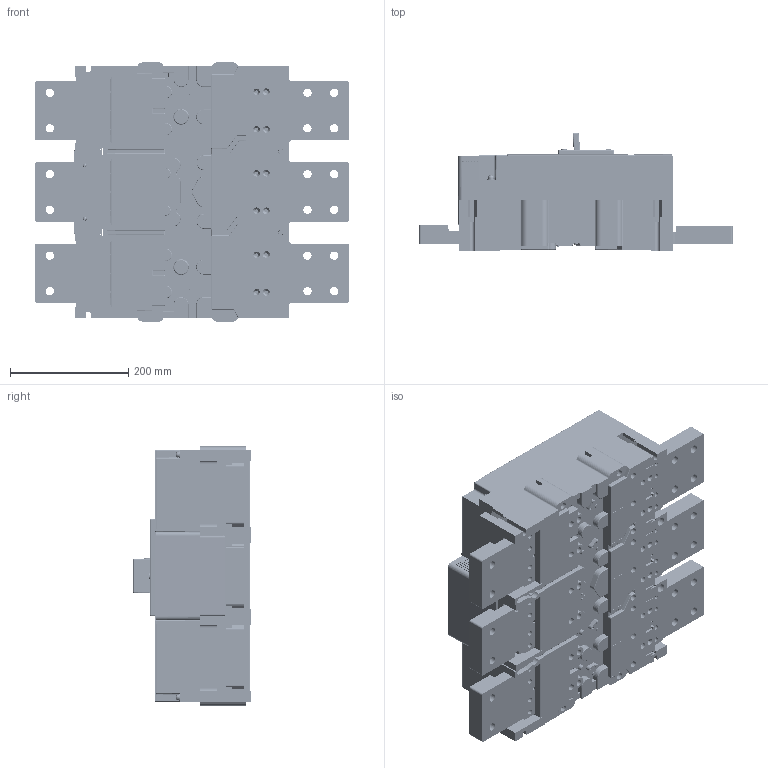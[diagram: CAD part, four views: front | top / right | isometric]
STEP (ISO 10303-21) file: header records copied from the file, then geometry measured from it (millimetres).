
FILE_DESCRIPTION (( 'STEP AP203' ), '1' );
FILE_NAME ('ﾂﾀ55-43 2000ﾀ.STEP', '2016-09-29T06:43:01', ( 'admin' ), ( '' ), 'SwSTEP 2.0', 'SolidWorks 2012', '' );
FILE_SCHEMA (( 'CONFIG_CONTROL_DESIGN' ));
Products named in the file (1): ﾂﾀ55-43 2000ﾀ
Bounding box: 530 x 200.03 x 438 mm (x, y, z)
Volume: 22210029 mm3; surface area: 2189643.1 mm2
Topology: 150 solids, 150 shells, 10995 faces, 27798 edges, 17500 vertices
Faces by surface type: plane 5368, cylinder 3142, bspline 1510, cone 688, torus 241, sphere 46
Entity records: 384222 total; most frequent: CARTESIAN_POINT 127792, ORIENTED_EDGE 55484, DIRECTION 49487, EDGE_CURVE 27742, VERTEX_POINT 17500, LINE 17217, VECTOR 17217, AXIS2_PLACEMENT_3D 16135
